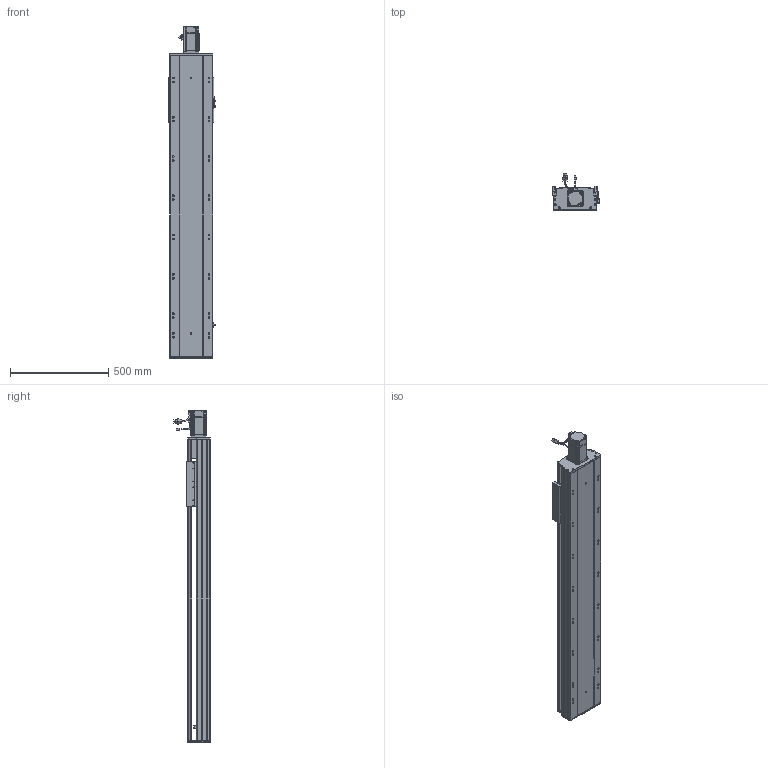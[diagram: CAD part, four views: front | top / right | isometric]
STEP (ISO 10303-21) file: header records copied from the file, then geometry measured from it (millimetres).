
FILE_DESCRIPTION (( 'STEP AP203' ), '1' );
FILE_NAME ('RY220-L2525-800-MK-邧嶺.SLDASM_1100.step', '2022-08-06T08:57:34', ( '' ), ( '' ), 'SwSTEP 2.0', 'SolidWorks 2016', '' );
FILE_SCHEMA (( 'CONFIG_CONTROL_DESIGN' ));
Length unit declared in the file: millimetre
Products named in the file (12): 怢湛750W_ECMA-CX0807ES; 覜茼ん672; 滅袉蝶18-15; RY220-L2525-800-MK-邧嶺.SLDASM_1100; 滅袉蝶18-12; RY220半封闭25-32螺母铝滑块; RY220电机支撑座FK20（PCD90M6）; RY220綴裔啣; RY220菁釱MK-800-邧嶺_1100; RY220-俋离672覜茼んえ; RY220ヶ裔啣; RY220-800-奻裔啣-MK_1100
Assembly tree (15 placements, depth 2):
  RY220-L2525-800-MK-邧嶺.SLDASM_1100
    RY220菁釱MK-800-邧嶺_1100
    RY220电机支撑座FK20（PCD90M6）
    怢湛750W_ECMA-CX0807ES
    滅袉蝶18-12  x2
    RY220ヶ裔啣
    RY220綴裔啣
    覜茼ん672  x3
    RY220半封闭25-32螺母铝滑块
    RY220-800-奻裔啣-MK_1100
    RY220-俋离672覜茼んえ
    滅袉蝶18-15  x2
Bounding box: 238.7 x 187.27 x 1690.3 mm (x, y, z)
Volume: 13194364.5 mm3; surface area: 3707224.8 mm2
Topology: 16 solids, 16 shells, 2264 faces, 6278 edges, 3958 vertices
Faces by surface type: cylinder 1026, plane 915, cone 261, bspline 36, sphere 16, torus 10
Entity records: 74456 total; most frequent: CARTESIAN_POINT 21115, ORIENTED_EDGE 11072, DIRECTION 10491, EDGE_CURVE 5536, AXIS2_PLACEMENT_3D 3697, VERTEX_POINT 3614, LINE 3097, VECTOR 3097
